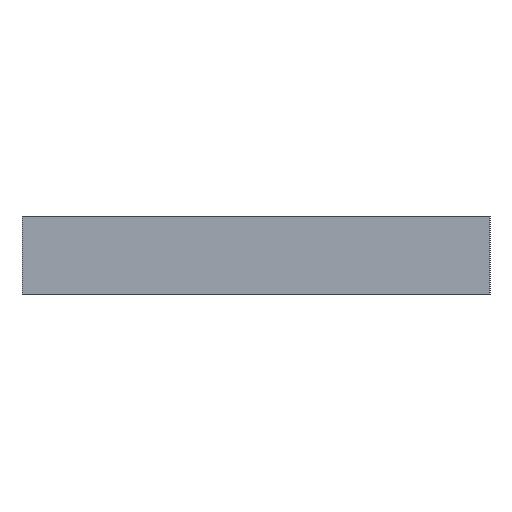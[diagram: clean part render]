
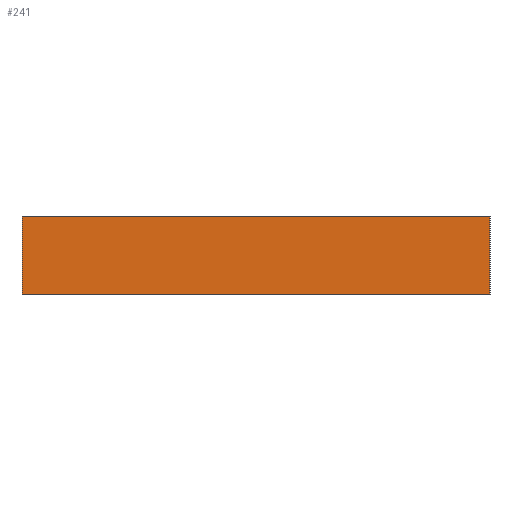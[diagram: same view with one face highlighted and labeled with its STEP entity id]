
A CAD part, left-side view. The second image highlights one B-rep face of the part: STEP entity #241.
In plain terms, the highlighted planar face has unit normal (-1, 0, 0).
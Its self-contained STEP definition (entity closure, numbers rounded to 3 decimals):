
#2 = VECTOR ( 'NONE', #231, 1000. ) ;
#5 = ORIENTED_EDGE ( 'NONE', *, *, #232, .F. ) ;
#18 = CARTESIAN_POINT ( 'NONE',  ( -236., 18., 6. ) ) ;
#19 = CARTESIAN_POINT ( 'NONE',  ( -236., -18., 6. ) ) ;
#77 = CARTESIAN_POINT ( 'NONE',  ( -236., 18., 0. ) ) ;
#99 = DIRECTION ( 'NONE',  ( 0., 0., -1. ) ) ;
#100 = CARTESIAN_POINT ( 'NONE',  ( -236., -18., 0. ) ) ;
#101 = CARTESIAN_POINT ( 'NONE',  ( -236., -18., 6. ) ) ;
#117 = ORIENTED_EDGE ( 'NONE', *, *, #133, .F. ) ;
#123 = VERTEX_POINT ( 'NONE', #19 ) ;
#129 = CARTESIAN_POINT ( 'NONE',  ( -236., -18., 6. ) ) ;
#130 = LINE ( 'NONE', #340, #311 ) ;
#133 = EDGE_CURVE ( 'NONE', #123, #286, #313, .T. ) ;
#135 = ORIENTED_EDGE ( 'NONE', *, *, #219, .T. ) ;
#144 = VERTEX_POINT ( 'NONE', #18 ) ;
#153 = LINE ( 'NONE', #101, #258 ) ;
#160 = DIRECTION ( 'NONE',  ( 0., -1., 0. ) ) ;
#164 = CARTESIAN_POINT ( 'NONE',  ( -236., -18., 0. ) ) ;
#181 = ORIENTED_EDGE ( 'NONE', *, *, #189, .T. ) ;
#187 = DIRECTION ( 'NONE',  ( 0., 0., -1. ) ) ;
#188 = DIRECTION ( 'NONE',  ( 0., -1., 0. ) ) ;
#189 = EDGE_CURVE ( 'NONE', #196, #286, #262, .T. ) ;
#196 = VERTEX_POINT ( 'NONE', #77 ) ;
#219 = EDGE_CURVE ( 'NONE', #144, #196, #130, .T. ) ;
#231 = DIRECTION ( 'NONE',  ( 0., 0., -1. ) ) ;
#232 = EDGE_CURVE ( 'NONE', #144, #123, #153, .T. ) ;
#235 = FACE_OUTER_BOUND ( 'NONE', #298, .T. ) ;
#236 = AXIS2_PLACEMENT_3D ( 'NONE', #341, #257, #99 ) ;
#241 = ADVANCED_FACE ( 'NONE', ( #235 ), #256, .F. ) ;
#256 = PLANE ( 'NONE',  #236 ) ;
#257 = DIRECTION ( 'NONE',  ( 1., 0., 0. ) ) ;
#258 = VECTOR ( 'NONE', #188, 1000. ) ;
#262 = LINE ( 'NONE', #100, #296 ) ;
#286 = VERTEX_POINT ( 'NONE', #164 ) ;
#296 = VECTOR ( 'NONE', #160, 1000. ) ;
#298 = EDGE_LOOP ( 'NONE', ( #181, #117, #5, #135 ) ) ;
#311 = VECTOR ( 'NONE', #187, 1000. ) ;
#313 = LINE ( 'NONE', #129, #2 ) ;
#340 = CARTESIAN_POINT ( 'NONE',  ( -236., 18., 6. ) ) ;
#341 = CARTESIAN_POINT ( 'NONE',  ( -236., -18., 6. ) ) ;
